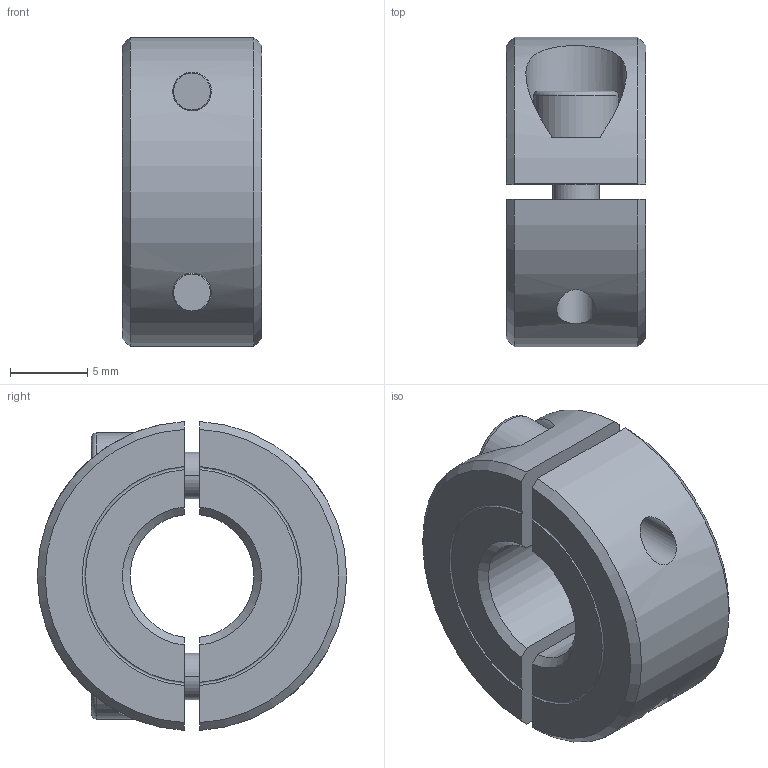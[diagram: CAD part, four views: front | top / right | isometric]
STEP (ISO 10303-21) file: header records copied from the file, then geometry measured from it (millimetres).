
FILE_DESCRIPTION((''),'2;1');
FILE_NAME('131-600-0008_ASM','2013-12-20T',('Brieden'),('brieden'),'PRO/ENGINEER BY PARAMETRIC TECHNOLOGY CORPORATION, 2005030','PRO/ENGINEER BY PARAMETRIC TECHNOLOGY CORPORATION, 2005030','');
FILE_SCHEMA(('AUTOMOTIVE_DESIGN_CC2 { 1 2 10303 214 -1 1 5 2 }'));
Length unit declared in the file: millimetre
Products named in the file (4): 131-600-0008-DB_PRT; 131-600-0008-TH_PRT; D912-M3X8_PRT; 131-600-0008_ASM
Assembly tree (4 placements, depth 2):
  131-600-0008_ASM
    131-600-0008-DB_PRT
    131-600-0008-TH_PRT
    D912-M3X8_PRT  x2
Bounding box: 9 x 20 x 19.98 mm (x, y, z)
Volume: 2117.7 mm3; surface area: 2017 mm2
Topology: 4 solids, 4 shells, 94 faces, 214 edges, 136 vertices
Faces by surface type: plane 34, cylinder 26, cone 20, torus 14
Entity records: 2260 total; most frequent: CARTESIAN_POINT 559, DIRECTION 348, ORIENTED_EDGE 312, EDGE_CURVE 156, AXIS2_PLACEMENT_3D 143, VERTEX_POINT 100, EDGE_LOOP 80, CIRCLE 68
